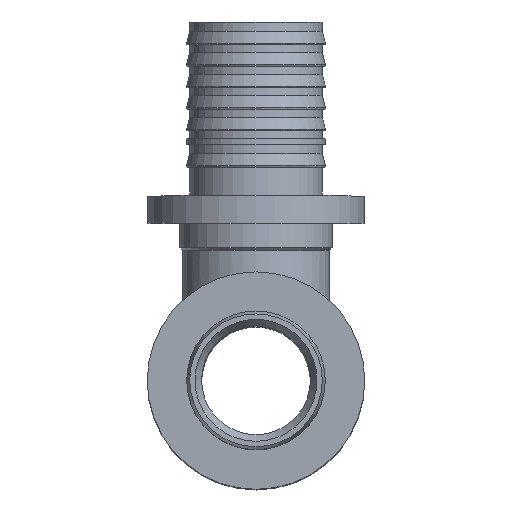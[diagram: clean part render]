
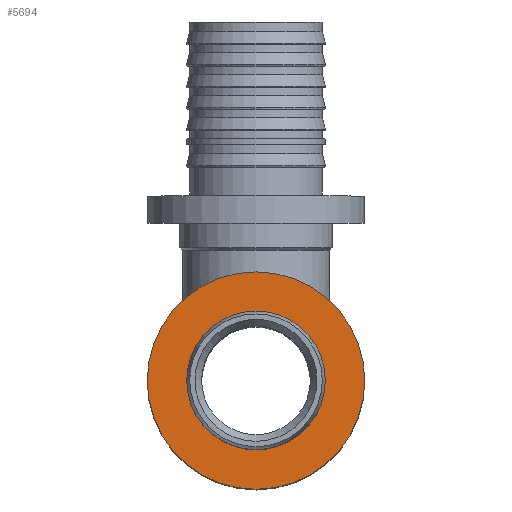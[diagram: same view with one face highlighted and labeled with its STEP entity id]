
A CAD part, top view. The second image highlights one B-rep face of the part: STEP entity #5694.
In plain terms, the highlighted planar face has unit normal (0, 0, 1).
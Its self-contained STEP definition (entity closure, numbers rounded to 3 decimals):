
#57=FACE_BOUND('',#1410,.T.);
#298=CIRCLE('',#6099,20.);
#299=CIRCLE('',#6100,20.);
#300=CIRCLE('',#6102,12.19);
#301=CIRCLE('',#6103,12.19);
#1079=FACE_OUTER_BOUND('',#1409,.T.);
#1409=EDGE_LOOP('',(#5029,#5030));
#1410=EDGE_LOOP('',(#5031,#5032));
#2624=VERTEX_POINT('',#12643);
#2625=VERTEX_POINT('',#12644);
#2626=VERTEX_POINT('',#12649);
#2627=VERTEX_POINT('',#12650);
#3458=EDGE_CURVE('',#2624,#2625,#298,.T.);
#3459=EDGE_CURVE('',#2625,#2624,#299,.T.);
#3461=EDGE_CURVE('',#2626,#2627,#300,.T.);
#3462=EDGE_CURVE('',#2627,#2626,#301,.T.);
#5029=ORIENTED_EDGE('',*,*,#3458,.T.);
#5030=ORIENTED_EDGE('',*,*,#3459,.T.);
#5031=ORIENTED_EDGE('',*,*,#3461,.F.);
#5032=ORIENTED_EDGE('',*,*,#3462,.F.);
#5423=PLANE('',#6101);
#5694=ADVANCED_FACE('',(#1079,#57),#5423,.T.);
#6099=AXIS2_PLACEMENT_3D('',#12645,#7203,#7204);
#6100=AXIS2_PLACEMENT_3D('',#12646,#7205,#7206);
#6101=AXIS2_PLACEMENT_3D('',#12648,#7208,#7209);
#6102=AXIS2_PLACEMENT_3D('',#12651,#7210,#7211);
#6103=AXIS2_PLACEMENT_3D('',#12652,#7212,#7213);
#7203=DIRECTION('center_axis',(0.,0.,1.));
#7204=DIRECTION('ref_axis',(1.,0.,0.));
#7205=DIRECTION('center_axis',(0.,0.,1.));
#7206=DIRECTION('ref_axis',(1.,0.,0.));
#7208=DIRECTION('center_axis',(0.,0.,1.));
#7209=DIRECTION('ref_axis',(1.,0.,0.));
#7210=DIRECTION('center_axis',(0.,0.,1.));
#7211=DIRECTION('ref_axis',(1.,0.,0.));
#7212=DIRECTION('center_axis',(0.,0.,1.));
#7213=DIRECTION('ref_axis',(1.,0.,0.));
#12643=CARTESIAN_POINT('',(0.,-20.,100.121));
#12644=CARTESIAN_POINT('',(0.,20.,100.121));
#12645=CARTESIAN_POINT('Origin',(0.,0.,100.121));
#12646=CARTESIAN_POINT('Origin',(0.,0.,100.121));
#12648=CARTESIAN_POINT('Origin',(0.,-12.19,100.121));
#12649=CARTESIAN_POINT('',(0.,-12.19,100.121));
#12650=CARTESIAN_POINT('',(0.,12.19,100.121));
#12651=CARTESIAN_POINT('Origin',(0.,0.,100.121));
#12652=CARTESIAN_POINT('Origin',(0.,0.,100.121));
